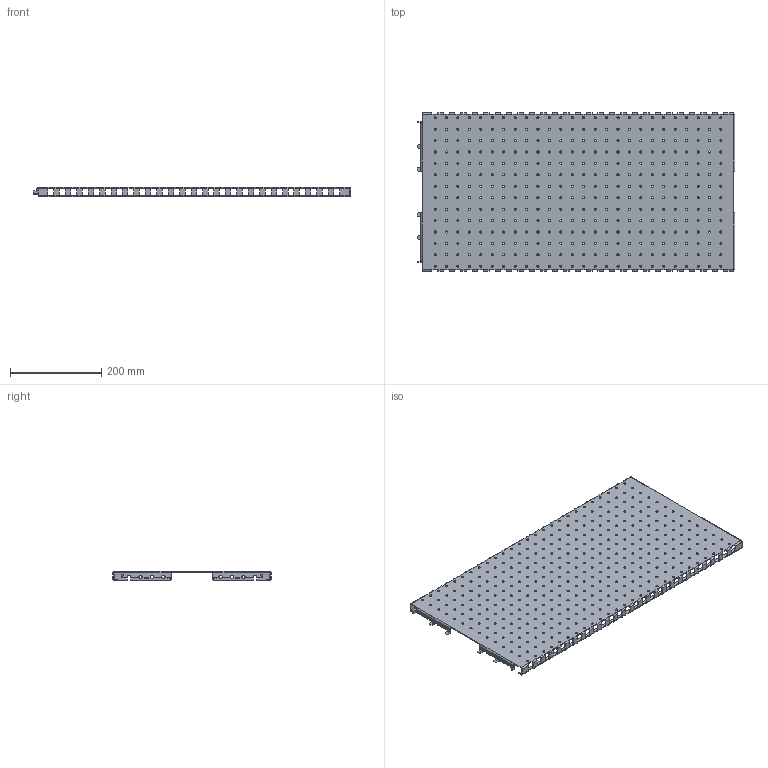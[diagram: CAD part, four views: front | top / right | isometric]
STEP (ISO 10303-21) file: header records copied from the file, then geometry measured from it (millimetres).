
FILE_DESCRIPTION(('STEP AP203'), '1');
FILE_NAME('Îãðàæäåíèå ñáîðíîé øèíû áîêîâîå ìîíòàæíîå 350õ800 ìì OptiBox M 419290 ÊÝÀÇ', '', ('UNSPECIFIED'), ('UNSPECIFIED'), 'C3D Converter', 'C3D Toolkit', '');
FILE_SCHEMA(('CONFIG_CONTROL_DESIGN'));
Length unit declared in the file: millimetre
Bounding box: 694.3 x 347 x 20 mm (x, y, z)
Volume: 511704.3 mm3; surface area: 534448 mm2
Topology: 1 solids, 1 shells, 1054 faces, 2952 edges, 1796 vertices
Faces by surface type: cylinder 618, plane 436
Full cylindrical faces by diameter (mm): 4.6 x364, 7.3 x6
Entity records: 33602 total; most frequent: DIRECTION 5928, CARTESIAN_POINT 5433, ORIENTED_EDGE 5164, EDGE_CURVE 2582, AXIS2_PLACEMENT_3D 2291, EDGE_LOOP 2164, VERTEX_POINT 1796, FACE_BOUND 1424
